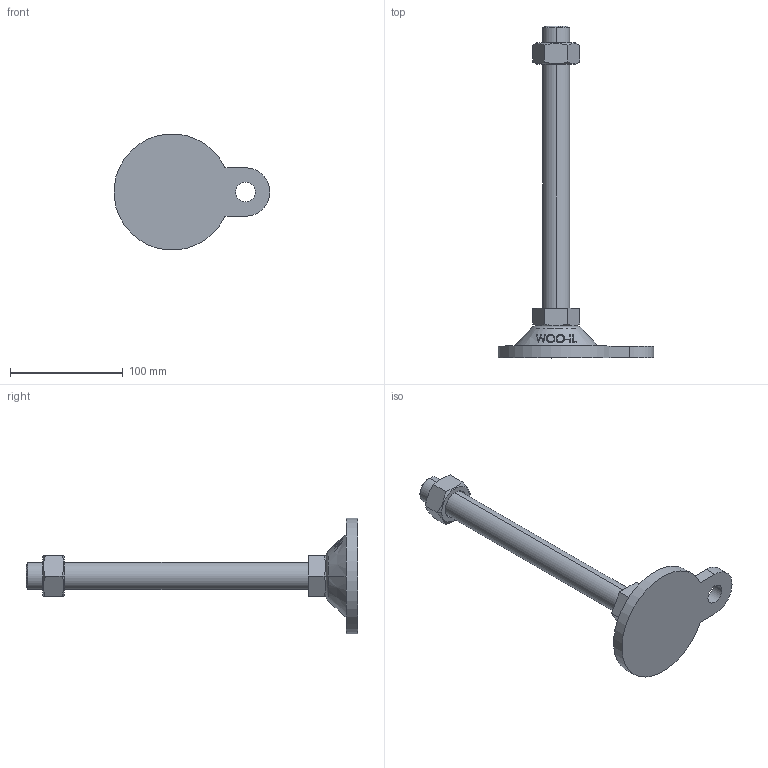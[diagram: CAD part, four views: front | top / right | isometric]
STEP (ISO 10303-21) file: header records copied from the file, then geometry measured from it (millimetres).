
FILE_DESCRIPTION (( 'STEP AP214' ), '1' );
FILE_NAME ('ARB103-M24-250.step', '2021-03-25T00:42:21', ( '' ), ( '' ), 'SwSTEP 2.0', 'SolidWorks 2019', '' );
FILE_SCHEMA (( 'AUTOMOTIVE_DESIGN' ));
Length unit declared in the file: millimetre
Products named in the file (2): ARB103-M24-250
Bounding box: 137.8 x 294 x 102.64 mm (x, y, z)
Volume: 289700.3 mm3; surface area: 52720.5 mm2
Topology: 3 solids, 3 shells, 97 faces, 229 edges, 148 vertices
Faces by surface type: plane 49, cone 22, bspline 16, cylinder 8, torus 2
Entity records: 4448 total; most frequent: CARTESIAN_POINT 2286, ORIENTED_EDGE 458, DIRECTION 375, EDGE_CURVE 229, VERTEX_POINT 148, AXIS2_PLACEMENT_3D 143, EDGE_LOOP 111, FACE_OUTER_BOUND 97
